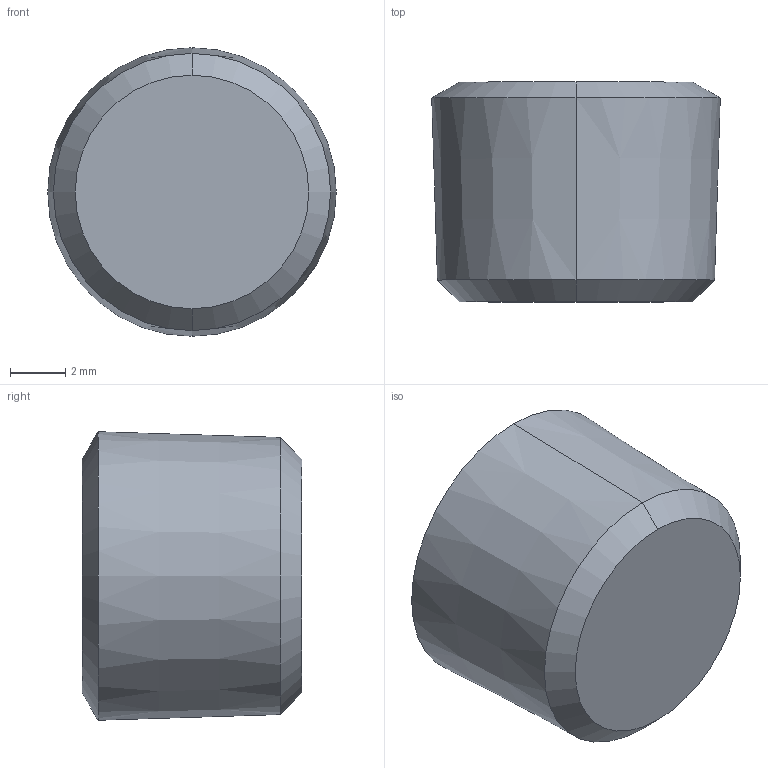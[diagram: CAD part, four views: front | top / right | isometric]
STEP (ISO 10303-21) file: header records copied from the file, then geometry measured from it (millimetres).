
FILE_DESCRIPTION (( 'STEP AP203' ), '1' );
FILE_NAME ('BR12-O.step', '2022-02-02T23:41:27', ( 'Microsoft Corporation' ), ( 'MS' ), 'SwSTEP 2.0', 'SolidWorks 2019', '' );
FILE_SCHEMA (( 'CONFIG_CONTROL_DESIGN' ));
Length unit declared in the file: inch
Products named in the file (1): BR12-O
Bounding box: 10.4 x 7.92 x 10.4 mm (x, y, z)
Volume: 532.3 mm3; surface area: 455.9 mm2
Topology: 1 solids, 1 shells, 25 faces, 54 edges, 32 vertices
Faces by surface type: plane 15, cone 10
Entity records: 801 total; most frequent: CARTESIAN_POINT 180, DIRECTION 116, ORIENTED_EDGE 108, EDGE_CURVE 54, AXIS2_PLACEMENT_3D 44, VERTEX_POINT 32, LINE 28, VECTOR 28
